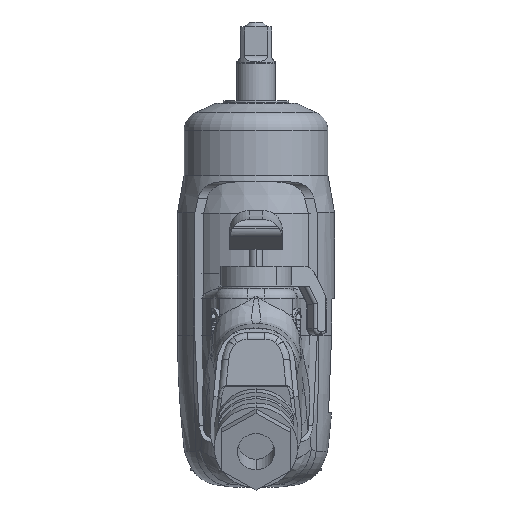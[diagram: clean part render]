
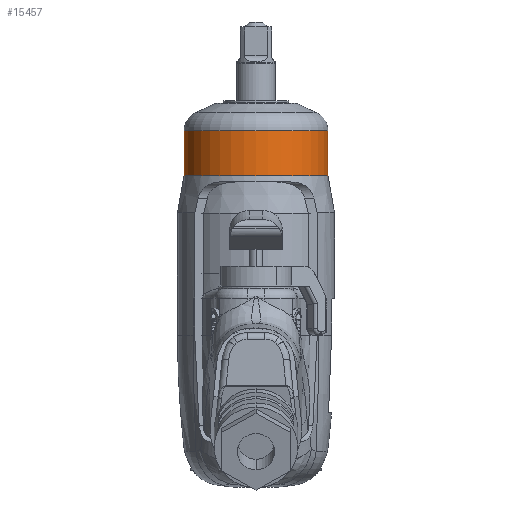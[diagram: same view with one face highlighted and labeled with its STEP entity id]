
A CAD part, front view. The second image highlights one B-rep face of the part: STEP entity #15457.
In plain terms, the highlighted cylindrical face has radius 22 mm (diameter 44 mm), a partial arc.
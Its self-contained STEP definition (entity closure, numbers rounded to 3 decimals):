
#53 = EDGE_CURVE ( 'NONE', #79816, #78872, #15690, .T. ) ;
#9542 = CARTESIAN_POINT ( 'NONE',  ( 22., 0., -26.911 ) ) ;
#9684 = CARTESIAN_POINT ( 'NONE',  ( -22., 0., -40.682 ) ) ;
#9708 = CARTESIAN_POINT ( 'NONE',  ( -22., 0., -26.911 ) ) ;
#9709 = CARTESIAN_POINT ( 'NONE',  ( 22., 0., -40.682 ) ) ;
#9831 = DIRECTION ( 'NONE',  ( 0., 0., 1. ) ) ;
#9833 = VECTOR ( 'NONE', #9831, 1000. ) ;
#9834 = CARTESIAN_POINT ( 'NONE',  ( -22., 0., -17.7 ) ) ;
#9835 = LINE ( 'NONE', #9834, #9833 ) ;
#15171 = EDGE_LOOP ( 'NONE', ( #15444, #15374, #15373, #15367 ) ) ;
#15365 = EDGE_CURVE ( 'NONE', #78872, #79832, #37415, .T. ) ;
#15367 = ORIENTED_EDGE ( 'NONE', *, *, #15365, .T. ) ;
#15372 = EDGE_CURVE ( 'NONE', #79573, #79816, #37476, .T. ) ;
#15373 = ORIENTED_EDGE ( 'NONE', *, *, #53, .T. ) ;
#15374 = ORIENTED_EDGE ( 'NONE', *, *, #15372, .T. ) ;
#15444 = ORIENTED_EDGE ( 'NONE', *, *, #80957, .F. ) ;
#15457 = ADVANCED_FACE ( 'NONE', ( #37629 ), #37628, .T. ) ;
#15687 = DIRECTION ( 'NONE',  ( 0., 0., 1. ) ) ;
#15688 = VECTOR ( 'NONE', #15687, 1000. ) ;
#15689 = CARTESIAN_POINT ( 'NONE',  ( 22., 0., -17.7 ) ) ;
#15690 = LINE ( 'NONE', #15689, #15688 ) ;
#37415 = CIRCLE ( 'NONE', #37486, 22. ) ;
#37467 = DIRECTION ( 'NONE',  ( -1., 0., 0. ) ) ;
#37468 = DIRECTION ( 'NONE',  ( 0., 0., 1. ) ) ;
#37469 = AXIS2_PLACEMENT_3D ( 'NONE', #37474, #37468, #37467 ) ;
#37474 = CARTESIAN_POINT ( 'NONE',  ( 0., 0., -40.682 ) ) ;
#37476 = CIRCLE ( 'NONE', #37469, 22. ) ;
#37483 = DIRECTION ( 'NONE',  ( 1., 0., 0. ) ) ;
#37484 = DIRECTION ( 'NONE',  ( 0., 0., -1. ) ) ;
#37485 = CARTESIAN_POINT ( 'NONE',  ( 0., 0., -26.911 ) ) ;
#37486 = AXIS2_PLACEMENT_3D ( 'NONE', #37485, #37484, #37483 ) ;
#37623 = DIRECTION ( 'NONE',  ( 1., 0., 0. ) ) ;
#37624 = DIRECTION ( 'NONE',  ( 0., 0., 1. ) ) ;
#37625 = CARTESIAN_POINT ( 'NONE',  ( 0., 0., -17.7 ) ) ;
#37626 = AXIS2_PLACEMENT_3D ( 'NONE', #37625, #37624, #37623 ) ;
#37628 = CYLINDRICAL_SURFACE ( 'NONE', #37626, 22. ) ;
#37629 = FACE_OUTER_BOUND ( 'NONE', #15171, .T. ) ;
#78872 = VERTEX_POINT ( 'NONE', #9542 ) ;
#79573 = VERTEX_POINT ( 'NONE', #9684 ) ;
#79816 = VERTEX_POINT ( 'NONE', #9709 ) ;
#79832 = VERTEX_POINT ( 'NONE', #9708 ) ;
#80957 = EDGE_CURVE ( 'NONE', #79573, #79832, #9835, .T. ) ;
